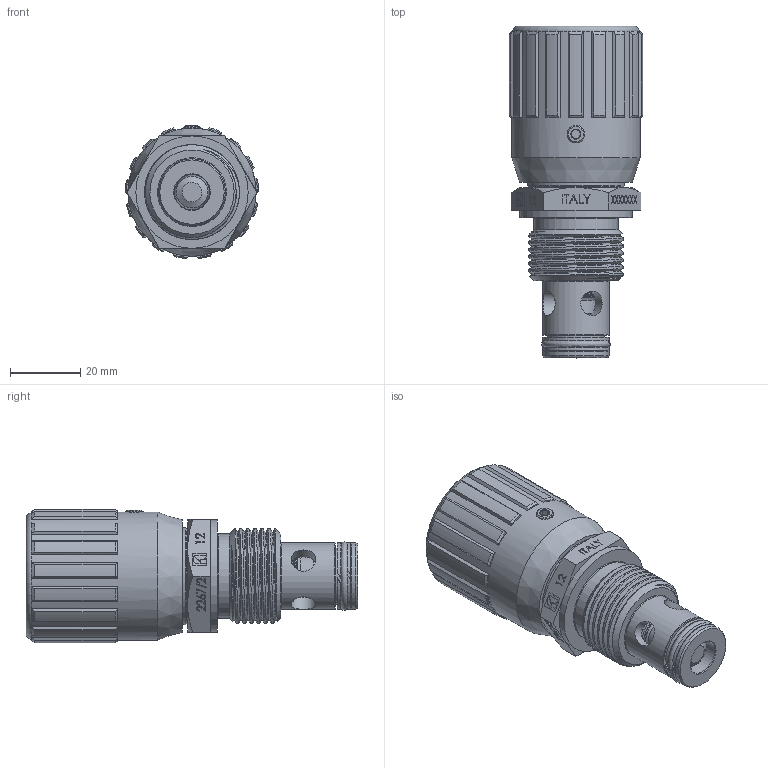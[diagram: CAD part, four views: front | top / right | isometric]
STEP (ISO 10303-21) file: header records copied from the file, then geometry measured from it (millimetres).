
FILE_DESCRIPTION (( 'STEP AP214' ), '1' );
FILE_NAME ('2267-2-12 VOLANTINO ALLUMINIO.STEP', '2025-10-29T16:04:08', ( '' ), ( '' ), 'SwSTEP 2.0', 'SolidWorks 2025', '' );
FILE_SCHEMA (( 'AUTOMOTIVE_DESIGN' ));
Length unit declared in the file: millimetre
Products named in the file (13): CAPPUCCIO VOLANTINO 257-2.007.00-12_Tipo12; OR 2062; GRANO DI BLOCCAGGIO M5x8_Tipo18; VOLANTINO DI MANOVRA 257-2.005.00-12_Tipo12; 2267-2-12 VOLANTINO ALLUMINIO; ANELLO ANTI ESTRUSIONE 267-2.022.00-12; BK 2043; DISCO FASCETTA 257-1.004.00-12; SPILLO DI REGOLAZIONE 2267-2.002.00-12; OR 2043; ANELLO DI FERMO 257-1.003.00-12; VITE TESTA BOMBATA 2257-2.006.00-12; CORPO CARTUCCIA FILETTATA 2267-2.101.00-12
Assembly tree (13 placements, depth 2):
  2267-2-12 VOLANTINO ALLUMINIO
    BK 2043
    OR 2043
    CORPO CARTUCCIA FILETTATA 2267-2.101.00-12
    SPILLO DI REGOLAZIONE 2267-2.002.00-12
    OR 2062
    GRANO DI BLOCCAGGIO M5x8_Tipo18
    ANELLO ANTI ESTRUSIONE 267-2.022.00-12  x2
    CAPPUCCIO VOLANTINO 257-2.007.00-12_Tipo12
    VOLANTINO DI MANOVRA 257-2.005.00-12_Tipo12
    ANELLO DI FERMO 257-1.003.00-12
    DISCO FASCETTA 257-1.004.00-12
    VITE TESTA BOMBATA 2257-2.006.00-12
Bounding box: 38 x 94.5 x 37.92 mm (x, y, z)
Volume: 55521.9 mm3; surface area: 33475.3 mm2
Topology: 13 solids, 13 shells, 915 faces, 2365 edges, 1562 vertices
Faces by surface type: plane 515, cone 205, cylinder 128, bspline 47, torus 19, sphere 1
Full cylindrical faces by diameter (mm): 2.5 x1, 3.3 x1, 4 x1, 5 x2, 6.8 x1, 7 x4, 10 x3, 10.9 x1, 11.4 x1, 11.5 x1, 12 x2, 13.5 x1, 14 x2, 14.7 x1, 15 x1, 15.6 x1, 16 x1, 19 x2, 22 x1, 23 x1, 24 x1, 27 x1, 27.1 x1, 27.6 x1, 32 x1, 36.5 x1
Entity records: 31891 total; most frequent: CARTESIAN_POINT 10531, ORIENTED_EDGE 4158, DIRECTION 4130, EDGE_CURVE 2079, VERTEX_POINT 1502, AXIS2_PLACEMENT_3D 1399, LINE 1332, VECTOR 1332
